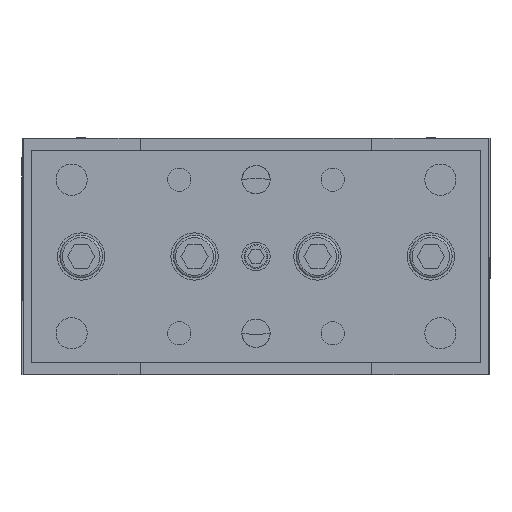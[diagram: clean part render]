
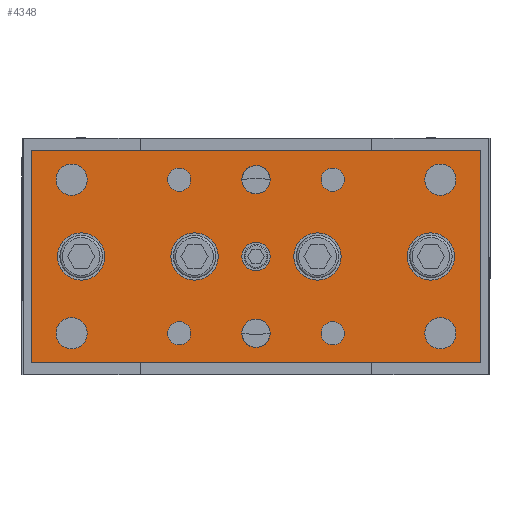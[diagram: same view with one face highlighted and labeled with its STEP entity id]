
A CAD part, front view. The second image highlights one B-rep face of the part: STEP entity #4348.
In plain terms, the highlighted planar face has unit normal (0, -1, 0).
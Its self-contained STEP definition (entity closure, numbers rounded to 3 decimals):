
#3177=CARTESIAN_POINT('',(3.,-72.0,-16.25));
#3178=VERTEX_POINT('',#3177);
#3179=CARTESIAN_POINT('',(0.,-72.0,-16.25));
#3180=DIRECTION('',(0.0,1.0,0.0));
#3181=DIRECTION('',(-1.0,0.0,0.0));
#3182=AXIS2_PLACEMENT_3D('',#3179,#3180,#3181);
#3183=CIRCLE('',#3182,3.);
#3184=EDGE_CURVE('',#3178,#3178,#3183,.T.);
#3198=CARTESIAN_POINT('',(3.,-72.0,16.25));
#3199=VERTEX_POINT('',#3198);
#3200=CARTESIAN_POINT('',(0.,-72.0,16.25));
#3201=DIRECTION('',(0.0,1.0,0.0));
#3202=DIRECTION('',(-1.0,0.0,0.0));
#3203=AXIS2_PLACEMENT_3D('',#3200,#3201,#3202);
#3204=CIRCLE('',#3203,3.);
#3205=EDGE_CURVE('',#3199,#3199,#3204,.T.);
#3700=CARTESIAN_POINT('',(3.,-72.0,0.));
#3701=VERTEX_POINT('',#3700);
#3702=CARTESIAN_POINT('',(0.0,-72.0,0.0));
#3703=DIRECTION('',(0.0,1.0,0.0));
#3704=DIRECTION('',(-1.0,0.0,0.0));
#3705=AXIS2_PLACEMENT_3D('',#3702,#3703,#3704);
#3706=CIRCLE('',#3705,3.);
#3707=EDGE_CURVE('',#3701,#3701,#3706,.T.);
#3740=CARTESIAN_POINT('',(-32.0,-72.0,0.));
#3741=VERTEX_POINT('',#3740);
#3742=CARTESIAN_POINT('',(-37.0,-72.0,0.0));
#3743=DIRECTION('',(0.0,1.0,0.0));
#3744=DIRECTION('',(-1.0,0.0,0.0));
#3745=AXIS2_PLACEMENT_3D('',#3742,#3743,#3744);
#3746=CIRCLE('',#3745,5.0);
#3747=EDGE_CURVE('',#3741,#3741,#3746,.T.);
#3780=CARTESIAN_POINT('',(-8.,-72.0,0.));
#3781=VERTEX_POINT('',#3780);
#3782=CARTESIAN_POINT('',(-13.,-72.0,0.));
#3783=DIRECTION('',(0.0,1.0,0.0));
#3784=DIRECTION('',(-1.0,0.0,0.0));
#3785=AXIS2_PLACEMENT_3D('',#3782,#3783,#3784);
#3786=CIRCLE('',#3785,5.0);
#3787=EDGE_CURVE('',#3781,#3781,#3786,.T.);
#3820=CARTESIAN_POINT('',(18.,-72.0,0.));
#3821=VERTEX_POINT('',#3820);
#3822=CARTESIAN_POINT('',(13.,-72.0,0.));
#3823=DIRECTION('',(0.0,1.0,0.0));
#3824=DIRECTION('',(-1.0,0.0,0.0));
#3825=AXIS2_PLACEMENT_3D('',#3822,#3823,#3824);
#3826=CIRCLE('',#3825,5.0);
#3827=EDGE_CURVE('',#3821,#3821,#3826,.T.);
#3860=CARTESIAN_POINT('',(42.,-72.0,0.));
#3861=VERTEX_POINT('',#3860);
#3862=CARTESIAN_POINT('',(37.,-72.0,0.));
#3863=DIRECTION('',(0.0,1.0,0.0));
#3864=DIRECTION('',(-1.0,0.0,0.0));
#3865=AXIS2_PLACEMENT_3D('',#3862,#3863,#3864);
#3866=CIRCLE('',#3865,5.0);
#3867=EDGE_CURVE('',#3861,#3861,#3866,.T.);
#4200=CARTESIAN_POINT('',(47.5,-72.0,0.));
#4201=DIRECTION('',(0.0,-1.0,0.0));
#4202=DIRECTION('',(0.0,0.0,-1.0));
#4203=AXIS2_PLACEMENT_3D('',#4200,#4201,#4202);
#4204=PLANE('',#4203);
#4205=CARTESIAN_POINT('',(47.5,-72.0,22.5));
#4206=VERTEX_POINT('',#4205);
#4207=CARTESIAN_POINT('',(-47.5,-72.0,22.5));
#4208=VERTEX_POINT('',#4207);
#4209=CARTESIAN_POINT('',(47.5,-72.0,22.5));
#4210=DIRECTION('',(-1.0,0.0,0.0));
#4211=VECTOR('',#4210,95.0);
#4212=LINE('',#4209,#4211);
#4213=EDGE_CURVE('',#4206,#4208,#4212,.T.);
#4214=ORIENTED_EDGE('',*,*,#4213,.T.);
#4215=CARTESIAN_POINT('',(-47.5,-72.0,-22.5));
#4216=VERTEX_POINT('',#4215);
#4217=CARTESIAN_POINT('',(-47.5,-72.0,22.5));
#4218=DIRECTION('',(0.0,0.0,-1.0));
#4219=VECTOR('',#4218,45.0);
#4220=LINE('',#4217,#4219);
#4221=EDGE_CURVE('',#4208,#4216,#4220,.T.);
#4222=ORIENTED_EDGE('',*,*,#4221,.T.);
#4223=CARTESIAN_POINT('',(47.5,-72.0,-22.5));
#4224=VERTEX_POINT('',#4223);
#4225=CARTESIAN_POINT('',(-47.5,-72.0,-22.5));
#4226=DIRECTION('',(1.0,0.0,0.0));
#4227=VECTOR('',#4226,95.0);
#4228=LINE('',#4225,#4227);
#4229=EDGE_CURVE('',#4216,#4224,#4228,.T.);
#4230=ORIENTED_EDGE('',*,*,#4229,.T.);
#4231=CARTESIAN_POINT('',(47.5,-72.0,-22.5));
#4232=DIRECTION('',(0.0,0.0,1.0));
#4233=VECTOR('',#4232,45.0);
#4234=LINE('',#4231,#4233);
#4235=EDGE_CURVE('',#4224,#4206,#4234,.T.);
#4236=ORIENTED_EDGE('',*,*,#4235,.T.);
#4237=EDGE_LOOP('',(#4214,#4222,#4230,#4236));
#4238=FACE_OUTER_BOUND('',#4237,.T.);
#4239=ORIENTED_EDGE('',*,*,#3184,.T.);
#4240=EDGE_LOOP('',(#4239));
#4241=FACE_BOUND('',#4240,.T.);
#4242=ORIENTED_EDGE('',*,*,#3205,.T.);
#4243=EDGE_LOOP('',(#4242));
#4244=FACE_BOUND('',#4243,.T.);
#4245=CARTESIAN_POINT('',(-13.791,-72.0,16.25));
#4246=VERTEX_POINT('',#4245);
#4247=CARTESIAN_POINT('',(-16.25,-72.0,16.25));
#4248=DIRECTION('',(0.0,1.0,0.0));
#4249=DIRECTION('',(1.0,0.0,0.0));
#4250=AXIS2_PLACEMENT_3D('',#4247,#4248,#4249);
#4251=CIRCLE('',#4250,2.459);
#4252=EDGE_CURVE('',#4246,#4246,#4251,.T.);
#4253=ORIENTED_EDGE('',*,*,#4252,.T.);
#4254=EDGE_LOOP('',(#4253));
#4255=FACE_BOUND('',#4254,.T.);
#4256=CARTESIAN_POINT('',(18.709,-72.0,16.25));
#4257=VERTEX_POINT('',#4256);
#4258=CARTESIAN_POINT('',(16.25,-72.0,16.25));
#4259=DIRECTION('',(0.0,1.0,0.0));
#4260=DIRECTION('',(1.0,0.0,0.0));
#4261=AXIS2_PLACEMENT_3D('',#4258,#4259,#4260);
#4262=CIRCLE('',#4261,2.459);
#4263=EDGE_CURVE('',#4257,#4257,#4262,.T.);
#4264=ORIENTED_EDGE('',*,*,#4263,.T.);
#4265=EDGE_LOOP('',(#4264));
#4266=FACE_BOUND('',#4265,.T.);
#4267=CARTESIAN_POINT('',(-13.791,-72.0,-16.25));
#4268=VERTEX_POINT('',#4267);
#4269=CARTESIAN_POINT('',(-16.25,-72.0,-16.25));
#4270=DIRECTION('',(0.0,1.0,0.0));
#4271=DIRECTION('',(1.0,0.0,0.0));
#4272=AXIS2_PLACEMENT_3D('',#4269,#4270,#4271);
#4273=CIRCLE('',#4272,2.459);
#4274=EDGE_CURVE('',#4268,#4268,#4273,.T.);
#4275=ORIENTED_EDGE('',*,*,#4274,.T.);
#4276=EDGE_LOOP('',(#4275));
#4277=FACE_BOUND('',#4276,.T.);
#4278=CARTESIAN_POINT('',(18.709,-72.0,-16.25));
#4279=VERTEX_POINT('',#4278);
#4280=CARTESIAN_POINT('',(16.25,-72.0,-16.25));
#4281=DIRECTION('',(0.0,1.0,0.0));
#4282=DIRECTION('',(1.0,0.0,0.0));
#4283=AXIS2_PLACEMENT_3D('',#4280,#4281,#4282);
#4284=CIRCLE('',#4283,2.459);
#4285=EDGE_CURVE('',#4279,#4279,#4284,.T.);
#4286=ORIENTED_EDGE('',*,*,#4285,.T.);
#4287=EDGE_LOOP('',(#4286));
#4288=FACE_BOUND('',#4287,.T.);
#4289=CARTESIAN_POINT('',(-42.3,-72.0,16.25));
#4290=VERTEX_POINT('',#4289);
#4291=CARTESIAN_POINT('',(-39.0,-72.0,16.25));
#4292=DIRECTION('',(0.0,1.0,0.0));
#4293=DIRECTION('',(1.0,0.0,0.0));
#4294=AXIS2_PLACEMENT_3D('',#4291,#4292,#4293);
#4295=CIRCLE('',#4294,3.3);
#4296=EDGE_CURVE('',#4290,#4290,#4295,.T.);
#4297=ORIENTED_EDGE('',*,*,#4296,.T.);
#4298=EDGE_LOOP('',(#4297));
#4299=FACE_BOUND('',#4298,.T.);
#4300=CARTESIAN_POINT('',(35.7,-72.0,16.25));
#4301=VERTEX_POINT('',#4300);
#4302=CARTESIAN_POINT('',(39.,-72.0,16.25));
#4303=DIRECTION('',(0.0,1.0,0.0));
#4304=DIRECTION('',(1.0,0.0,0.0));
#4305=AXIS2_PLACEMENT_3D('',#4302,#4303,#4304);
#4306=CIRCLE('',#4305,3.3);
#4307=EDGE_CURVE('',#4301,#4301,#4306,.T.);
#4308=ORIENTED_EDGE('',*,*,#4307,.T.);
#4309=EDGE_LOOP('',(#4308));
#4310=FACE_BOUND('',#4309,.T.);
#4311=CARTESIAN_POINT('',(-42.3,-72.0,-16.25));
#4312=VERTEX_POINT('',#4311);
#4313=CARTESIAN_POINT('',(-39.0,-72.0,-16.25));
#4314=DIRECTION('',(0.0,1.0,0.0));
#4315=DIRECTION('',(1.0,0.0,0.0));
#4316=AXIS2_PLACEMENT_3D('',#4313,#4314,#4315);
#4317=CIRCLE('',#4316,3.3);
#4318=EDGE_CURVE('',#4312,#4312,#4317,.T.);
#4319=ORIENTED_EDGE('',*,*,#4318,.T.);
#4320=EDGE_LOOP('',(#4319));
#4321=FACE_BOUND('',#4320,.T.);
#4322=CARTESIAN_POINT('',(35.7,-72.0,-16.25));
#4323=VERTEX_POINT('',#4322);
#4324=CARTESIAN_POINT('',(39.,-72.0,-16.25));
#4325=DIRECTION('',(0.0,1.0,0.0));
#4326=DIRECTION('',(1.0,0.0,0.0));
#4327=AXIS2_PLACEMENT_3D('',#4324,#4325,#4326);
#4328=CIRCLE('',#4327,3.3);
#4329=EDGE_CURVE('',#4323,#4323,#4328,.T.);
#4330=ORIENTED_EDGE('',*,*,#4329,.T.);
#4331=EDGE_LOOP('',(#4330));
#4332=FACE_BOUND('',#4331,.T.);
#4333=ORIENTED_EDGE('',*,*,#3867,.T.);
#4334=EDGE_LOOP('',(#4333));
#4335=FACE_BOUND('',#4334,.T.);
#4336=ORIENTED_EDGE('',*,*,#3827,.T.);
#4337=EDGE_LOOP('',(#4336));
#4338=FACE_BOUND('',#4337,.T.);
#4339=ORIENTED_EDGE('',*,*,#3787,.T.);
#4340=EDGE_LOOP('',(#4339));
#4341=FACE_BOUND('',#4340,.T.);
#4342=ORIENTED_EDGE('',*,*,#3747,.T.);
#4343=EDGE_LOOP('',(#4342));
#4344=FACE_BOUND('',#4343,.T.);
#4345=ORIENTED_EDGE('',*,*,#3707,.T.);
#4346=EDGE_LOOP('',(#4345));
#4347=FACE_BOUND('',#4346,.T.);
#4348=ADVANCED_FACE('',(#4238,#4241,#4244,#4255,#4266,#4277,#4288,#4299,#4310,#4321,#4332,#4335,#4338,#4341,#4344,#4347),#4204,.T.);
